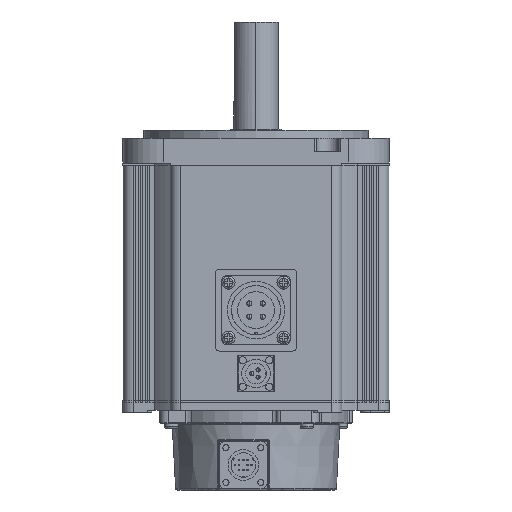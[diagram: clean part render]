
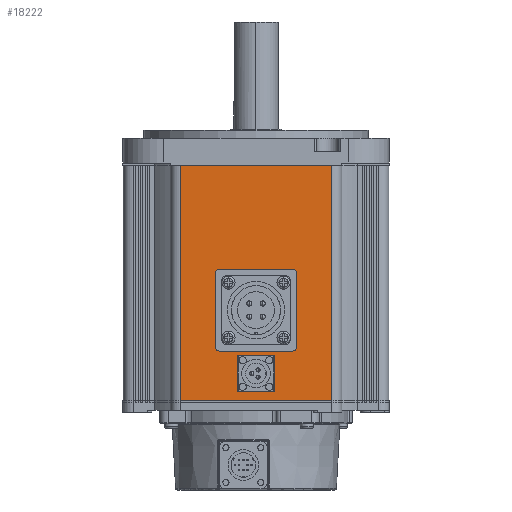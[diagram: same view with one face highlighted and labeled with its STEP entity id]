
A CAD part, front view. The second image highlights one B-rep face of the part: STEP entity #18222.
In plain terms, the highlighted planar face has unit normal (0, -1, 0) as drawn and (0, 1, 0) by its records, which use the part's own axes.
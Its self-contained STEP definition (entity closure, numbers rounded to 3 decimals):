
#457 = LINE ( 'NONE', #30434, #22083 ) ;
#662 = ORIENTED_EDGE ( 'NONE', *, *, #12283, .T. ) ;
#1068 = VECTOR ( 'NONE', #8905, 1000. ) ;
#1584 = ORIENTED_EDGE ( 'NONE', *, *, #10742, .F. ) ;
#1600 = CARTESIAN_POINT ( 'NONE',  ( 37., 65., 116. ) ) ;
#1779 = FACE_BOUND ( 'NONE', #19802, .T. ) ;
#1844 = VERTEX_POINT ( 'NONE', #29586 ) ;
#2079 = DIRECTION ( 'NONE',  ( 0., 0., -1. ) ) ;
#2399 = EDGE_CURVE ( 'NONE', #1844, #19956, #7110, .T. ) ;
#3219 = VERTEX_POINT ( 'NONE', #1600 ) ;
#3273 = DIRECTION ( 'NONE',  ( -1., 0., 0. ) ) ;
#3467 = CIRCLE ( 'NONE', #9449, 5. ) ;
#3594 = CARTESIAN_POINT ( 'NONE',  ( 5., 65., 14. ) ) ;
#3924 = EDGE_LOOP ( 'NONE', ( #4571, #6976 ) ) ;
#4068 = EDGE_CURVE ( 'NONE', #20189, #10306, #3467, .T. ) ;
#4089 = EDGE_CURVE ( 'NONE', #3219, #11439, #27414, .T. ) ;
#4571 = ORIENTED_EDGE ( 'NONE', *, *, #2399, .F. ) ;
#6062 = AXIS2_PLACEMENT_3D ( 'NONE', #18070, #20913, #8422 ) ;
#6081 = AXIS2_PLACEMENT_3D ( 'NONE', #30659, #18131, #30881 ) ;
#6735 = LINE ( 'NONE', #14546, #20067 ) ;
#6976 = ORIENTED_EDGE ( 'NONE', *, *, #31233, .F. ) ;
#7110 = CIRCLE ( 'NONE', #6062, 5. ) ;
#7234 = AXIS2_PLACEMENT_3D ( 'NONE', #13239, #15745, #3273 ) ;
#8422 = DIRECTION ( 'NONE',  ( -1., 0., 0. ) ) ;
#8905 = DIRECTION ( 'NONE',  ( 0., 0., -1. ) ) ;
#9449 = AXIS2_PLACEMENT_3D ( 'NONE', #17095, #30053, #9866 ) ;
#9866 = DIRECTION ( 'NONE',  ( -1., 0., 0. ) ) ;
#10235 = CARTESIAN_POINT ( 'NONE',  ( -5., 65., 14. ) ) ;
#10306 = VERTEX_POINT ( 'NONE', #3594 ) ;
#10742 = EDGE_CURVE ( 'NONE', #3219, #24016, #457, .T. ) ;
#10989 = CIRCLE ( 'NONE', #7234, 5. ) ;
#11439 = VERTEX_POINT ( 'NONE', #16332 ) ;
#12185 = VERTEX_POINT ( 'NONE', #31682 ) ;
#12283 = EDGE_CURVE ( 'NONE', #11439, #12185, #6735, .T. ) ;
#13239 = CARTESIAN_POINT ( 'NONE',  ( 0., 65., 45. ) ) ;
#14061 = LINE ( 'NONE', #21739, #1068 ) ;
#14078 = ORIENTED_EDGE ( 'NONE', *, *, #24857, .F. ) ;
#14285 = AXIS2_PLACEMENT_3D ( 'NONE', #16385, #14436, #16704 ) ;
#14321 = CARTESIAN_POINT ( 'NONE',  ( 5., 65., 45. ) ) ;
#14436 = DIRECTION ( 'NONE',  ( 0., 1., 0. ) ) ;
#14546 = CARTESIAN_POINT ( 'NONE',  ( -37., 65., 0. ) ) ;
#14919 = CARTESIAN_POINT ( 'NONE',  ( 37., 65., 116. ) ) ;
#15745 = DIRECTION ( 'NONE',  ( 0., 1., 0. ) ) ;
#16332 = CARTESIAN_POINT ( 'NONE',  ( 37., 65., 0. ) ) ;
#16385 = CARTESIAN_POINT ( 'NONE',  ( 0., 65., 14. ) ) ;
#16581 = CIRCLE ( 'NONE', #14285, 5. ) ;
#16704 = DIRECTION ( 'NONE',  ( -1., 0., 0. ) ) ;
#17056 = FACE_BOUND ( 'NONE', #3924, .T. ) ;
#17095 = CARTESIAN_POINT ( 'NONE',  ( 0., 65., 14. ) ) ;
#17862 = FACE_OUTER_BOUND ( 'NONE', #32578, .T. ) ;
#18070 = CARTESIAN_POINT ( 'NONE',  ( 0., 65., 45. ) ) ;
#18131 = DIRECTION ( 'NONE',  ( 0., -1., 0. ) ) ;
#18222 = ADVANCED_FACE ( 'NONE', ( #1779, #17056, #17862 ), #25428, .F. ) ;
#19366 = DIRECTION ( 'NONE',  ( -1., 0., 0. ) ) ;
#19802 = EDGE_LOOP ( 'NONE', ( #21234, #23050 ) ) ;
#19956 = VERTEX_POINT ( 'NONE', #14321 ) ;
#20067 = VECTOR ( 'NONE', #19366, 1000. ) ;
#20189 = VERTEX_POINT ( 'NONE', #10235 ) ;
#20913 = DIRECTION ( 'NONE',  ( 0., 1., 0. ) ) ;
#21234 = ORIENTED_EDGE ( 'NONE', *, *, #4068, .F. ) ;
#21739 = CARTESIAN_POINT ( 'NONE',  ( -37., 65., 116. ) ) ;
#22083 = VECTOR ( 'NONE', #31203, 1000. ) ;
#22689 = VECTOR ( 'NONE', #2079, 1000. ) ;
#23050 = ORIENTED_EDGE ( 'NONE', *, *, #27655, .F. ) ;
#23777 = CARTESIAN_POINT ( 'NONE',  ( -37., 65., 116. ) ) ;
#24016 = VERTEX_POINT ( 'NONE', #23777 ) ;
#24857 = EDGE_CURVE ( 'NONE', #24016, #12185, #14061, .T. ) ;
#25428 = PLANE ( 'NONE',  #6081 ) ;
#26610 = ORIENTED_EDGE ( 'NONE', *, *, #4089, .T. ) ;
#27414 = LINE ( 'NONE', #14919, #22689 ) ;
#27655 = EDGE_CURVE ( 'NONE', #10306, #20189, #16581, .T. ) ;
#29586 = CARTESIAN_POINT ( 'NONE',  ( -5., 65., 45. ) ) ;
#30053 = DIRECTION ( 'NONE',  ( 0., 1., 0. ) ) ;
#30434 = CARTESIAN_POINT ( 'NONE',  ( -37., 65., 116. ) ) ;
#30659 = CARTESIAN_POINT ( 'NONE',  ( -37., 65., 116. ) ) ;
#30881 = DIRECTION ( 'NONE',  ( 1., 0., 0. ) ) ;
#31203 = DIRECTION ( 'NONE',  ( -1., 0., 0. ) ) ;
#31233 = EDGE_CURVE ( 'NONE', #19956, #1844, #10989, .T. ) ;
#31682 = CARTESIAN_POINT ( 'NONE',  ( -37., 65., 0. ) ) ;
#32578 = EDGE_LOOP ( 'NONE', ( #662, #14078, #1584, #26610 ) ) ;
